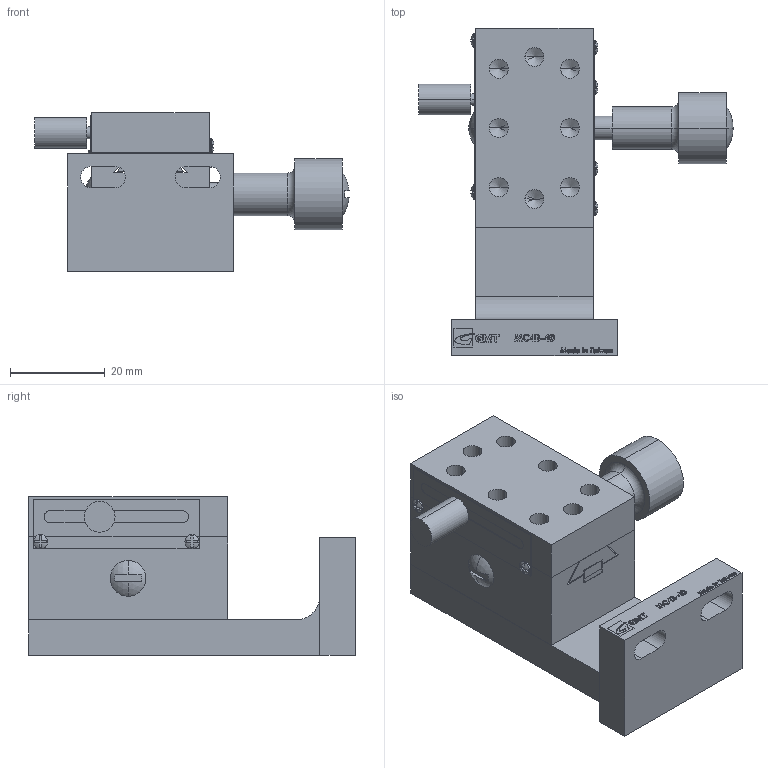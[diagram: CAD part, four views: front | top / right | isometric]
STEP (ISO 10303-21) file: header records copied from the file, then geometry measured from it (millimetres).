
FILE_DESCRIPTION (( 'STEP AP203' ), '1' );
FILE_NAME ('MC4B-40.STEP', '2008-07-19T10:40:41', ( 'user' ), ( '' ), 'SwSTEP 2.0', 'SolidWorks 2007', '' );
FILE_SCHEMA (( 'CONFIG_CONTROL_DESIGN' ));
Length unit declared in the file: millimetre
Products named in the file (1): MC4B-40
Bounding box: 66.36 x 69 x 33.5 mm (x, y, z)
Volume: 47104.5 mm3; surface area: 20380.5 mm2
Topology: 14 solids, 14 shells, 601 faces, 1554 edges, 1016 vertices
Faces by surface type: plane 360, cylinder 119, bspline 88, sphere 16, cone 16, torus 2
Entity records: 22961 total; most frequent: CARTESIAN_POINT 8572, ORIENTED_EDGE 3076, DIRECTION 2720, EDGE_CURVE 1538, VECTOR 1032, LINE 1032, VERTEX_POINT 1016, AXIS2_PLACEMENT_3D 844
